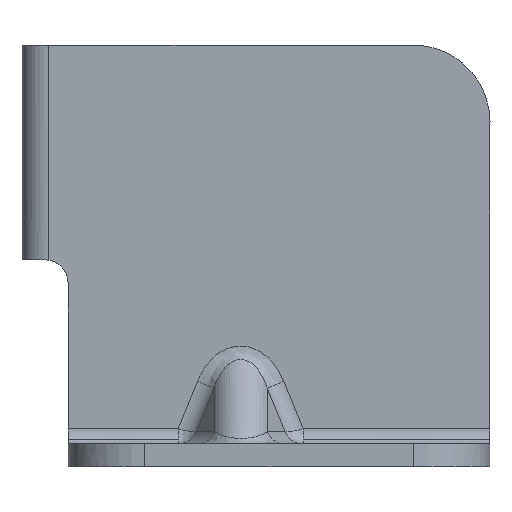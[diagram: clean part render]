
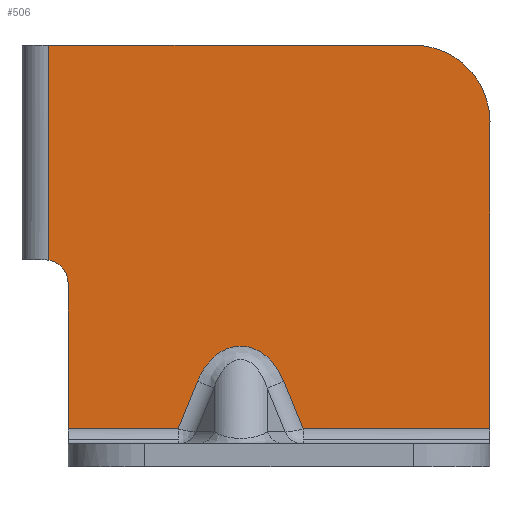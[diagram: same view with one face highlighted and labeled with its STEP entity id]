
A CAD part, left-side view. The second image highlights one B-rep face of the part: STEP entity #506.
In plain terms, the highlighted planar face has unit normal (-1, 0, 0).
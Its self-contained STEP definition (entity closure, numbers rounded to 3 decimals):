
#390=AXIS2_PLACEMENT_3D('Circle Axis2P3D',#388,#389,$) ;
#419=AXIS2_PLACEMENT_3D('Plane Axis2P3D',#416,#417,#418) ;
#423=AXIS2_PLACEMENT_3D('Circle Axis2P3D',#421,#422,$) ;
#271=CARTESIAN_POINT('Vertex',(1031.999,-430.499,46.958)) ;
#274=CARTESIAN_POINT('Line Origine',(1031.999,-430.499,61.)) ;
#278=CARTESIAN_POINT('Vertex',(1031.999,-430.499,75.)) ;
#332=CARTESIAN_POINT('Line Origine',(1031.999,-454.249,75.)) ;
#336=CARTESIAN_POINT('Vertex',(1031.999,-477.999,75.)) ;
#388=CARTESIAN_POINT('Axis2P3D Location',(1031.999,-429.999,44.)) ;
#392=CARTESIAN_POINT('Vertex',(1031.999,-432.999,44.)) ;
#416=CARTESIAN_POINT('Axis2P3D Location',(1031.999,-736.999,20.)) ;
#421=CARTESIAN_POINT('Axis2P3D Location',(1031.999,-477.999,65.)) ;
#425=CARTESIAN_POINT('Vertex',(1031.999,-487.999,65.)) ;
#428=CARTESIAN_POINT('Line Origine',(1031.999,-432.999,34.5)) ;
#432=CARTESIAN_POINT('Vertex',(1031.999,-432.999,25.)) ;
#435=CARTESIAN_POINT('Line Origine',(1031.999,-440.176,25.)) ;
#439=CARTESIAN_POINT('Vertex',(1031.999,-447.352,25.)) ;
#442=CARTESIAN_POINT('Line Origine',(1031.999,-448.611,28.083)) ;
#446=CARTESIAN_POINT('Vertex',(1031.999,-449.87,31.167)) ;
#450=CARTESIAN_POINT('Control Point',(1031.999,-461.128,31.167)) ;
#451=CARTESIAN_POINT('Control Point',(1031.999,-460.861,31.822)) ;
#452=CARTESIAN_POINT('Control Point',(1031.999,-460.538,32.456)) ;
#453=CARTESIAN_POINT('Control Point',(1031.999,-460.158,33.059)) ;
#454=CARTESIAN_POINT('Control Point',(1031.999,-459.357,34.075)) ;
#455=CARTESIAN_POINT('Control Point',(1031.999,-458.349,34.882)) ;
#456=CARTESIAN_POINT('Control Point',(1031.999,-457.855,35.191)) ;
#457=CARTESIAN_POINT('Control Point',(1031.999,-456.935,35.604)) ;
#458=CARTESIAN_POINT('Control Point',(1031.999,-455.946,35.77)) ;
#459=CARTESIAN_POINT('Control Point',(1031.999,-455.521,35.792)) ;
#460=CARTESIAN_POINT('Control Point',(1031.999,-454.535,35.728)) ;
#461=CARTESIAN_POINT('Control Point',(1031.999,-453.594,35.411)) ;
#462=CARTESIAN_POINT('Control Point',(1031.999,-453.087,35.155)) ;
#463=CARTESIAN_POINT('Control Point',(1031.999,-452.171,34.542)) ;
#464=CARTESIAN_POINT('Control Point',(1031.999,-451.404,33.753)) ;
#465=CARTESIAN_POINT('Control Point',(1031.999,-451.066,33.336)) ;
#466=CARTESIAN_POINT('Control Point',(1031.999,-450.602,32.661)) ;
#467=CARTESIAN_POINT('Control Point',(1031.999,-450.216,31.94)) ;
#468=CARTESIAN_POINT('Control Point',(1031.999,-450.092,31.686)) ;
#469=CARTESIAN_POINT('Control Point',(1031.999,-449.976,31.428)) ;
#470=CARTESIAN_POINT('Control Point',(1031.999,-449.87,31.167)) ;
#471=CARTESIAN_POINT('Vertex',(1031.999,-461.128,31.167)) ;
#474=CARTESIAN_POINT('Line Origine',(1031.999,-462.387,28.083)) ;
#478=CARTESIAN_POINT('Vertex',(1031.999,-463.646,25.)) ;
#481=CARTESIAN_POINT('Line Origine',(1031.999,-475.822,25.)) ;
#485=CARTESIAN_POINT('Vertex',(1031.999,-487.999,25.)) ;
#488=CARTESIAN_POINT('Line Origine',(1031.999,-487.999,45.)) ;
#275=DIRECTION('Vector Direction',(0.,0.,1.)) ;
#333=DIRECTION('Vector Direction',(0.,1.,0.)) ;
#389=DIRECTION('Axis2P3D Direction',(-1.,0.,0.)) ;
#417=DIRECTION('Axis2P3D Direction',(1.,0.,0.)) ;
#418=DIRECTION('Axis2P3D XDirection',(0.,1.,0.)) ;
#422=DIRECTION('Axis2P3D Direction',(1.,0.,0.)) ;
#429=DIRECTION('Vector Direction',(0.,0.,-1.)) ;
#436=DIRECTION('Vector Direction',(0.,1.,0.)) ;
#443=DIRECTION('Vector Direction',(0.,-0.378,0.926)) ;
#475=DIRECTION('Vector Direction',(0.,0.378,0.926)) ;
#482=DIRECTION('Vector Direction',(0.,1.,0.)) ;
#489=DIRECTION('Vector Direction',(0.,0.,1.)) ;
#276=VECTOR('Line Direction',#275,1.) ;
#334=VECTOR('Line Direction',#333,1.) ;
#430=VECTOR('Line Direction',#429,1.) ;
#437=VECTOR('Line Direction',#436,1.) ;
#444=VECTOR('Line Direction',#443,1.) ;
#476=VECTOR('Line Direction',#475,1.) ;
#483=VECTOR('Line Direction',#482,1.) ;
#490=VECTOR('Line Direction',#489,1.) ;
#494=ORIENTED_EDGE('',*,*,#427,.F.) ;
#495=ORIENTED_EDGE('',*,*,#338,.T.) ;
#496=ORIENTED_EDGE('',*,*,#280,.T.) ;
#497=ORIENTED_EDGE('',*,*,#394,.F.) ;
#498=ORIENTED_EDGE('',*,*,#434,.T.) ;
#499=ORIENTED_EDGE('',*,*,#441,.T.) ;
#500=ORIENTED_EDGE('',*,*,#448,.F.) ;
#501=ORIENTED_EDGE('',*,*,#473,.F.) ;
#502=ORIENTED_EDGE('',*,*,#480,.F.) ;
#503=ORIENTED_EDGE('',*,*,#487,.T.) ;
#504=ORIENTED_EDGE('',*,*,#492,.F.) ;
#506=ADVANCED_FACE('interface-2.2.1\\\X2\51E04F554F53\X0\.33.2',(#505),#420,.F.) ;
#449=B_SPLINE_CURVE_WITH_KNOTS('',5,(#450,#451,#452,#453,#454,#455,#456,#457,#458,#459,#460,#461,#462,#463,#464,#465,#466,#467,#468,#469,#470),.UNSPECIFIED.,.F.,.U.,(6,3,3,3,3,3,6),(0.,5.019,9.097,12.084,16.054,19.843,21.842),.UNSPECIFIED.) ;
#391=CIRCLE('generated circle',#390,3.) ;
#424=CIRCLE('generated circle',#423,10.) ;
#280=EDGE_CURVE('',#279,#272,#277,.F.) ;
#338=EDGE_CURVE('',#337,#279,#335,.T.) ;
#394=EDGE_CURVE('',#393,#272,#391,.T.) ;
#427=EDGE_CURVE('',#337,#426,#424,.T.) ;
#434=EDGE_CURVE('',#393,#433,#431,.T.) ;
#441=EDGE_CURVE('',#433,#440,#438,.F.) ;
#448=EDGE_CURVE('',#447,#440,#445,.F.) ;
#473=EDGE_CURVE('',#472,#447,#449,.T.) ;
#480=EDGE_CURVE('',#479,#472,#477,.T.) ;
#487=EDGE_CURVE('',#479,#486,#484,.F.) ;
#492=EDGE_CURVE('',#426,#486,#491,.F.) ;
#493=EDGE_LOOP('',(#494,#495,#496,#497,#498,#499,#500,#501,#502,#503,#504)) ;
#505=FACE_OUTER_BOUND('',#493,.T.) ;
#277=LINE('Line',#274,#276) ;
#335=LINE('Line',#332,#334) ;
#431=LINE('Line',#428,#430) ;
#438=LINE('Line',#435,#437) ;
#445=LINE('Line',#442,#444) ;
#477=LINE('Line',#474,#476) ;
#484=LINE('Line',#481,#483) ;
#491=LINE('Line',#488,#490) ;
#420=PLANE('Plane',#419) ;
#272=VERTEX_POINT('',#271) ;
#279=VERTEX_POINT('',#278) ;
#337=VERTEX_POINT('',#336) ;
#393=VERTEX_POINT('',#392) ;
#426=VERTEX_POINT('',#425) ;
#433=VERTEX_POINT('',#432) ;
#440=VERTEX_POINT('',#439) ;
#447=VERTEX_POINT('',#446) ;
#472=VERTEX_POINT('',#471) ;
#479=VERTEX_POINT('',#478) ;
#486=VERTEX_POINT('',#485) ;
